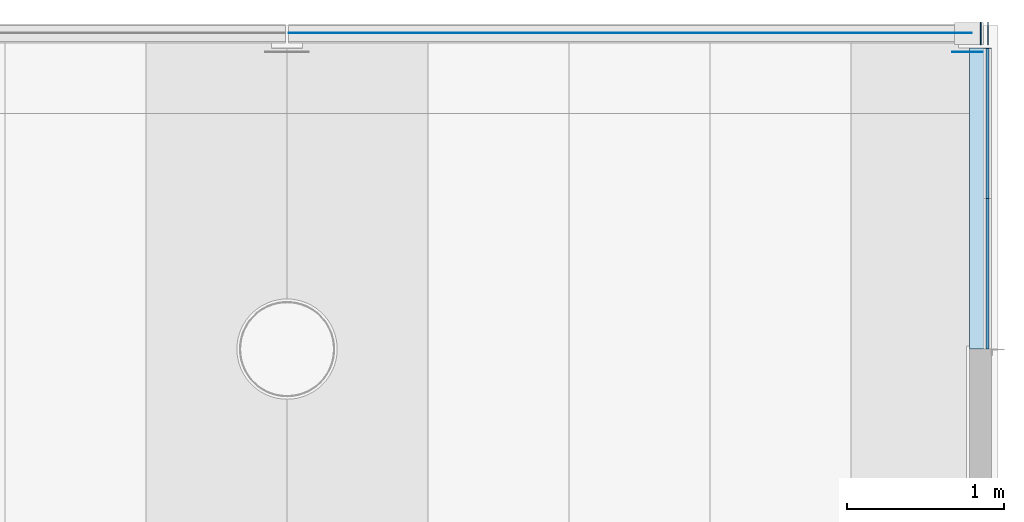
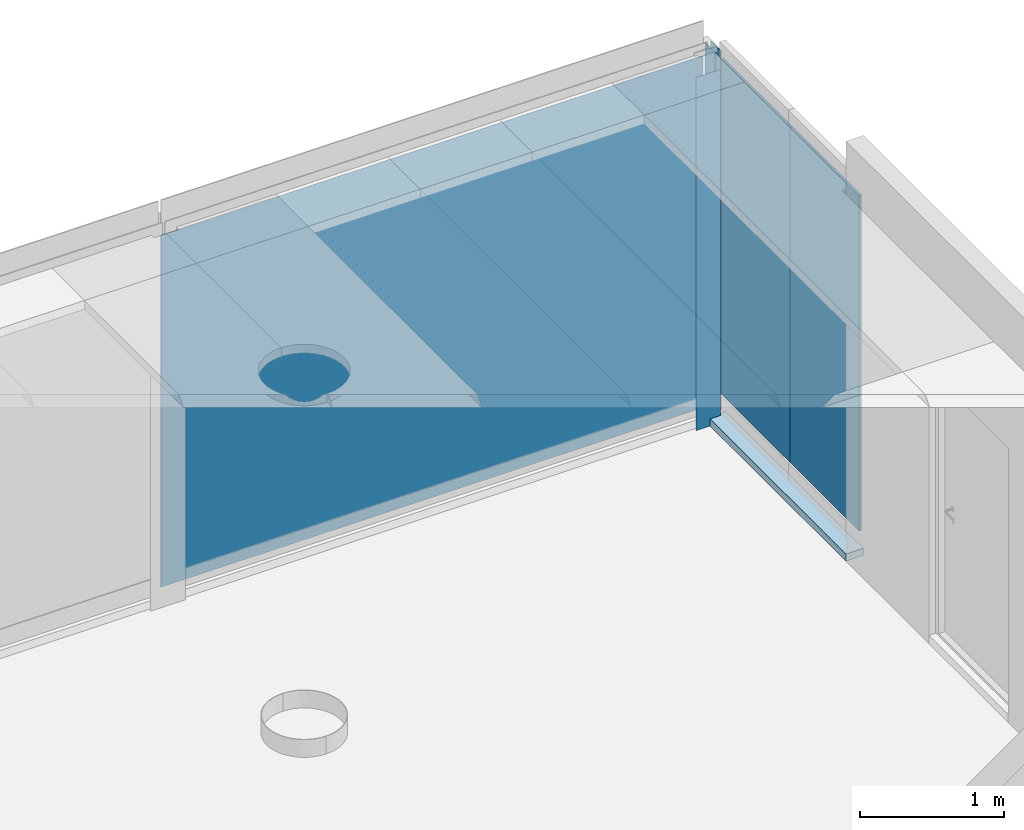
# One storey, part 3 of 12: 5 plates, 1 slab, 3 elements without a shape of their own.
"""IFC2X3 building model written with IfcOpenShell, lengths in millimetres."""

from ifc_helpers import new_model, entity, si_unit, converted_unit, derived_unit, direction, frame, frame_2d, origin, origin_with_axes, origin_2d_with_axis, place, context, subcontext, project, spatial, rectangle, extrude, source, transform, mapped, material, layer, layer_set, layer_usage, type_object, element, aggregate, save


model = new_model("IFC2X3")

# Units and contexts
model_context = context("Model", 3, precision=0.01, world=frame((0.0, 4.29681676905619e-09, 0.0)), true_north=direction((6.12323399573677e-17, 1.0)))
plan_context = context("Plan", 3, precision=0.01, world=frame((0.0, 4.29681676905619e-09, 0.0)), true_north=direction((6.12323399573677e-17, 1.0)))
body_context = subcontext(model_context, "Body", "Model", "MODEL_VIEW")
ifc_project = project(units=[converted_unit("PLANEANGLEUNIT", "DEGREE", entity("IfcPositiveLengthMeasure", 0.0174532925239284), si_unit("PLANEANGLEUNIT", "RADIAN"), dimensions=[0, 0, 0, 0, 0, 0, 0]), si_unit("AREAUNIT", "SQUARE_METRE"), si_unit("LENGTHUNIT", "METRE", prefix="MILLI"), si_unit("MASSUNIT", "GRAM", prefix="KILO"), si_unit("POWERUNIT", "WATT"), si_unit("PRESSUREUNIT", "PASCAL", prefix="KILO"), si_unit("FORCEUNIT", "NEWTON", prefix="KILO"), si_unit("ELECTRICVOLTAGEUNIT", "VOLT"), si_unit("ELECTRICCURRENTUNIT", "AMPERE"), si_unit("THERMODYNAMICTEMPERATUREUNIT", "DEGREE_CELSIUS"), si_unit("TIMEUNIT", "SECOND"), si_unit("VOLUMEUNIT", "CUBIC_METRE"), derived_unit("LINEARVELOCITYUNIT", [(si_unit("LENGTHUNIT", "METRE"), 1), (si_unit("TIMEUNIT", "SECOND"), -1)]), derived_unit("VOLUMETRICFLOWRATEUNIT", [(si_unit("VOLUMEUNIT", "CUBIC_METRE"), 1), (si_unit("TIMEUNIT", "SECOND"), -1)]), derived_unit("THERMALTRANSMITTANCEUNIT", [(si_unit("POWERUNIT", "WATT"), 1), (si_unit("THERMODYNAMICTEMPERATUREUNIT", "KELVIN"), -1), (si_unit("AREAUNIT", "SQUARE_METRE"), -1)]), derived_unit("SOUNDPRESSUREUNIT", [(si_unit("PRESSUREUNIT", "PASCAL"), 1)])], contexts=[model_context, plan_context])

# Site, building, storey
site_placement = place(None, origin_with_axes())
site = spatial("IfcSite", under=ifc_project, at=site_placement, Name="ENGM", CompositionType="ELEMENT")
building_placement = place(site_placement, origin_with_axes())
building = spatial("IfcBuilding", under=site, at=building_placement, Name="TH", CompositionType="ELEMENT")
storey_placement = place(building_placement, frame((0.0, 0.0, 210200.0), z_axis=(0.0, 0.0, 1.0), x_axis=(1.0, 0.0, 0.0)))
storey = spatial("IfcBuildingStorey", under=building, at=storey_placement, Name="Nivå F - 0,7 m", CompositionType="ELEMENT", Elevation=210200.0)

# Curtain wall, plate
curtain_wall_type_1 = type_object("IfcCurtainWallType", PredefinedType="NOTDEFINED")
curtain_wall_1_placement = place(storey_placement, frame((0.0, 0.0, -210200.0), z_axis=(0.0, 0.0, 1.0), x_axis=(1.0, 0.0, 0.0)))
curtain_wall_1 = element("IfcCurtainWall", 1, at=curtain_wall_1_placement, inside=storey, type_object=curtain_wall_type_1)
ifc_material_1 = material(Name="Metallforheng")
plate_type_1 = type_object("IfcPlateType", Name="System Panel:A240 - IV-M01 Metallforheng", PredefinedType="CURTAIN_PANEL", material=ifc_material_1)
shared_shape_1 = source(origin(), body_context, "Body", "SweptSolid", [
    extrude(rectangle(XDim=3.0, YDim=4359.99999999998, at=origin_2d_with_axis()), frame((0.0, 1.5, 0.0), z_axis=(0.0, 0.0, 1.0), x_axis=(0.0, 1.0, 0.0)), (0.0, 0.0, 1.0), 2992.00000000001),
])
plate_1_placement = place(curtain_wall_1_placement, frame((1128190.0, 468414.499999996, 210208.0), z_axis=(0.0, 0.0, 1.0), x_axis=(1.0, 0.0, 0.0)))
plate_1 = element("IfcPlate", 2, at=plate_1_placement, type_object=plate_type_1, material=ifc_material_1, Name="System Panel:A240 - IV-M01 Metallforheng", ObjectType="System Panel:A240 - IV-M01 Metallforheng", context=body_context, shape_type="MappedRepresentation", body=[
    mapped(shared_shape_1, transform((0.0, 0.0, 0.0), scale=1.0)),
])
aggregate(curtain_wall_1, [plate_1])

# Curtain wall, plates
curtain_wall_type_2 = type_object("IfcCurtainWallType", PredefinedType="NOTDEFINED")
curtain_wall_2_placement = place(storey_placement, frame((0.0, 0.0, -210200.0), z_axis=(0.0, 0.0, 1.0), x_axis=(1.0, 0.0, 0.0)))
curtain_wall_2 = element("IfcCurtainWall", 3, at=curtain_wall_2_placement, inside=storey, type_object=curtain_wall_type_2)
ifc_material_2 = material(Name="Glass")
plate_type_2 = type_object("IfcPlateType", Name="System Panel:A245 - PA-G06", PredefinedType="CURTAIN_PANEL", material=ifc_material_2)
shared_shape_2 = source(origin(), body_context, "Body", "SweptSolid", [
    extrude(rectangle(XDim=20.0, YDim=959.500000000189, at=origin_2d_with_axis()), frame((0.0, -10.0, 0.0), z_axis=(0.0, 0.0, 1.0), x_axis=(0.0, 1.0, 0.0)), (0.0, 0.0, 1.0), 2850.00000000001),
])
plate_2_placement = place(curtain_wall_2_placement, frame((1130459.79984169, 466879.749999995, 210350.0), z_axis=(0.0, 0.0, 1.0), x_axis=(0.0, 1.0, 0.0)))
plate_2 = element("IfcPlate", 4, at=plate_2_placement, type_object=plate_type_2, material=ifc_material_2, Name="System Panel:A245 - PA-G06", ObjectType="System Panel:A245 - PA-G06", context=body_context, shape_type="MappedRepresentation", body=[
    mapped(shared_shape_2, transform((0.0, 0.0, 0.0), scale=1.0)),
])
plate_3_placement = place(curtain_wall_2_placement, frame((1130459.79984169, 467839.249999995, 210350.0), z_axis=(0.0, 0.0, 1.0), x_axis=(0.0, 1.0, 0.0)))
plate_3 = element("IfcPlate", 5, at=plate_3_placement, type_object=plate_type_2, material=ifc_material_2, Name="System Panel:A245 - PA-G06", ObjectType="System Panel:A245 - PA-G06", context=body_context, shape_type="MappedRepresentation", body=[
    mapped(shared_shape_2, transform((0.0, 0.0, 0.0), scale=1.0)),
])
aggregate(curtain_wall_2, [plate_2, plate_3])

# Curtain wall, plate
curtain_wall_type_3 = type_object("IfcCurtainWallType", Name="Curtain Wall:A245 - SF-04", PredefinedType="NOTDEFINED")
curtain_wall_3_placement = place(storey_placement, frame((0.0, 0.0, -210200.0), z_axis=(0.0, 0.0, 1.0), x_axis=(1.0, 0.0, 0.0)))
curtain_wall_3 = element("IfcCurtainWall", 6, at=curtain_wall_3_placement, inside=storey, type_object=curtain_wall_type_3, Name="Curtain Wall:A245 - SF-04", ObjectType="Curtain Wall:A245 - SF-04")
ifc_material_3 = material(Name="Aluminium")
plate_type_3 = type_object("IfcPlateType", Name="A245 - SF:A245 - SF-04", PredefinedType="CURTAIN_PANEL", material=ifc_material_3)
shared_shape_3 = source(origin(), body_context, "Body", "SweptSolid", [
    extrude(rectangle(XDim=4.99999999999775, YDim=141.999999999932, at=frame_2d((0.0, -7.105427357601e-15), x_axis=(1.0, 0.0))), frame((0.0, 47.499999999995, 0.0), z_axis=(0.0, 0.0, 1.0), x_axis=(0.0, 1.0, 0.0)), (0.0, 0.0, 1.0), 3050.0),
    extrude(rectangle(XDim=4.99999999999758, YDim=141.999999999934, at=frame_2d((6.66133814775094e-16, 7.105427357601e-15), x_axis=(1.0, 0.0))), frame((0.0, 2.49999999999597, 0.0), z_axis=(0.0, 0.0, 1.0), x_axis=(0.0, 1.0, 0.0)), (0.0, 0.0, 1.0), 3050.0),
])
plate_4_placement = place(curtain_wall_3_placement, frame((1130424.79984185, 468414.499999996, 210200.0), z_axis=(0.0, 0.0, 1.0), x_axis=(0.0, -1.0, 0.0)))
plate_4 = element("IfcPlate", 7, at=plate_4_placement, type_object=plate_type_3, material=ifc_material_3, Name="A245 - SF:A245 - SF-04", ObjectType="A245 - SF:A245 - SF-04", context=body_context, shape_type="MappedRepresentation", body=[
    mapped(shared_shape_3, transform((0.0, 0.0, 0.0), scale=1.0)),
])
aggregate(curtain_wall_3, [plate_4])

# Plate
ifc_material_4 = material(Name="<Unnamed>")
plate_type_4 = type_object("IfcPlateType", Name="A243 - Beskyttelse lyssensor metallforheng:A243 - Beskyttelse lyssensor metallforheng", PredefinedType="NOTDEFINED", material=ifc_material_4)
shared_shape_4 = source(origin(), body_context, "Body", "SweptSolid", [
    extrude(rectangle(XDim=195.0, YDim=4.00000000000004, at=origin_2d_with_axis()), frame((0.0, -2.0, 0.0)), (0.0, 0.0, 1.0), 3000.0),
])
plate_5_placement = place(storey_placement, frame((1130341.83923194, 468298.999999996, -70.0), z_axis=(0.0, 0.0, 1.0), x_axis=(1.0, 0.0, 0.0)))
element("IfcPlate", 8, at=plate_5_placement, inside=storey, type_object=plate_type_4, material=ifc_material_4, Name="A243 - Beskyttelse lyssensor metallforheng:A243 - Beskyttelse lyssensor metallforheng", ObjectType="A243 - Beskyttelse lyssensor metallforheng:A243 - Beskyttelse lyssensor metallforheng", context=body_context, shape_type="MappedRepresentation", body=[
    mapped(shared_shape_4, transform((0.0, 0.0, 0.0), scale=1.0)),
])

# Slab
ifc_material_5 = material(Name="Concrete, Sand/Cement Screed")
ifc_layer = layer(ifc_material_5, 61.0)
ifc_layer_set = layer_set([ifc_layer], Name="Floor:A254 - GU-M01 - Poretetting av betong inkl. avretting_61mm")
ifc_layer_usage = layer_usage(ifc_layer_set, "AXIS3", "POSITIVE", 0.0)
slab_type = type_object("IfcSlabType", Name="Floor:A254 - GU-M01 - Poretetting av betong inkl. avretting_61mm", PredefinedType="FLOOR", material=ifc_layer_set)
slab_placement = place(storey_placement, origin_with_axes())
element("IfcSlab", 9, at=slab_placement, inside=storey, type_object=slab_type, material=ifc_layer_usage, Name="Floor:A254 - GU-M01 - Poretetting av betong inkl. avretting_61mm", ObjectType="Floor:A254 - GU-M01 - Poretetting av betong inkl. avretting_61mm", PredefinedType="FLOOR", context=body_context, shape_type="SweptSolid", body=[
    extrude(rectangle(XDim=1920.00008693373, YDim=139.99999999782, at=frame_2d((6.9292127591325e-11, 6.93063384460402e-11), x_axis=(1.0, 0.0))), frame((1130424.79984185, 467360.000043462, -9.0), z_axis=(0.0, 0.0, -1.0), x_axis=(0.0, 1.0, 0.0)), (0.0, 0.0, 1.0), 61.0000000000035),
])

save(model, "model.ifc")
